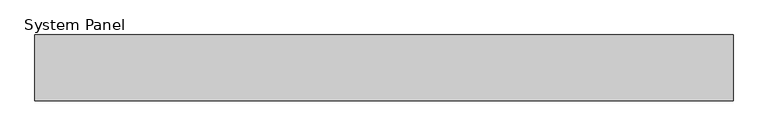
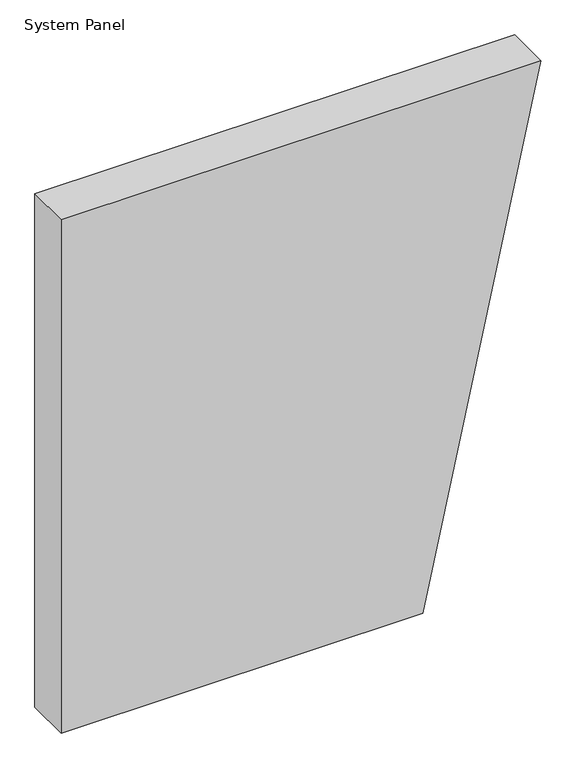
"""IFC4 building model written with IfcOpenShell, lengths in millimetres: plate geometry, System Panel : Equitilt 100mm Horizontal - Plain RHEA - EPS-FR."""

from ifc_helpers import new_model, si_unit, frame, origin, place, context, project, spatial, polyline, outline, extrude, source, transform, mapped, element, save


def system_panel_b922ef73(model_context):
    return source(origin(), model_context, "Body", "SweptSolid", [
        extrude(outline(polyline([(0.0, -530.4358309), (0.0, 269.5641691), (1200.0, 530.4358309), (1200.0, -530.4358309), (0.0, -530.4358309)])), frame((0.0, -100.0, 0.0), z_axis=(0.0, 1.0, 0.0), x_axis=(0.0, 0.0, 1.0)), (0.0, 0.0, 1.0), 100.0),
    ])


if __name__ == "__main__":
    model = new_model("IFC4")
    model_context = context("Model", 3, world=origin())
    ifc_project = project(units=[si_unit("LENGTHUNIT", "METRE", prefix="MILLI")], contexts=[model_context])
    site = spatial("IfcSite", under=ifc_project)
    building = spatial("IfcBuilding", under=site)
    placement = place(None, origin())
    system_panel_shape = system_panel_b922ef73(model_context)
    element("IfcPlate", 1, ObjectType="System Panel : Equitilt 100mm Horizontal - Plain RHEA - EPS-FR", at=placement, inside=building, context=model_context, shape_type="MappedRepresentation", body=[
        mapped(system_panel_shape, transform((0.0, 0.0, 0.0), x_axis=(1.0, 0.0, 0.0), y_axis=(0.0, 1.0, 0.0), z_axis=(0.0, 0.0, 1.0))),
    ])
    save(model, "model.ifc")
